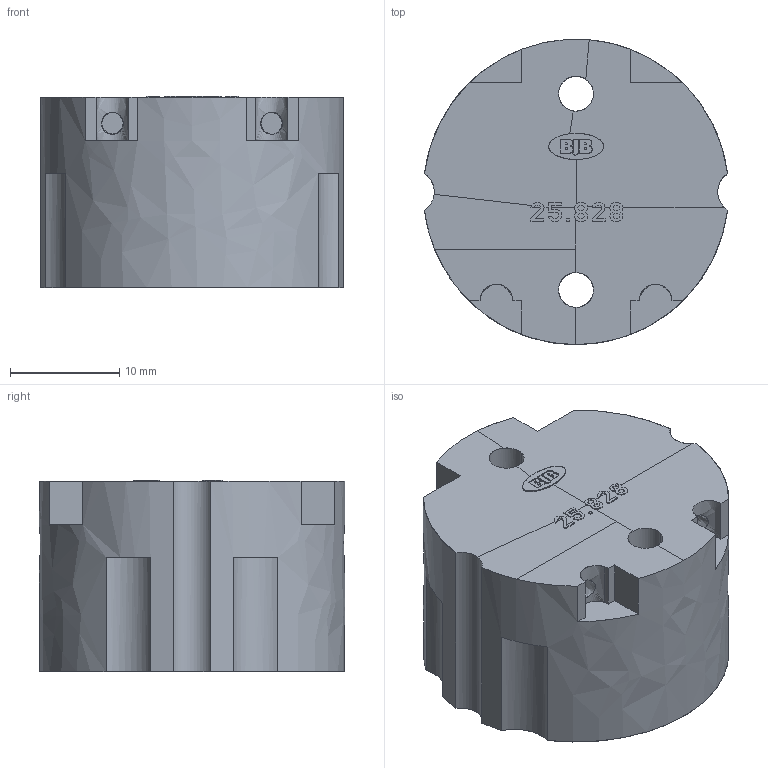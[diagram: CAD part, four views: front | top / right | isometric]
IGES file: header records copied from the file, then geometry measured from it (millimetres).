
Start section: Surface Model. Bezier boundary curves.
Global section: file name: 25_828_1000.igs; native system: TRANS-3D by CORETECH International; preprocessor: 2.1; date: 020218.102356; units: millimetre
Bounding box: 27.8 x 28 x 17.6 mm (x, y, z)
Surface area: 4037.7 mm2 (no closed solid volume)
Topology: 0 solids, 0 shells, 309 faces, 1913 edges, 1913 vertices
Faces by surface type: bspline 309
